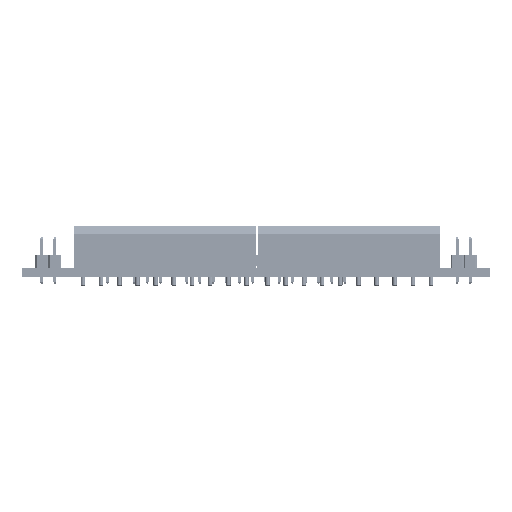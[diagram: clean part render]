
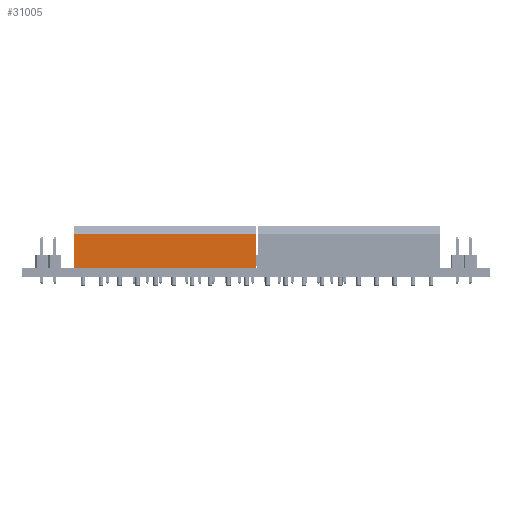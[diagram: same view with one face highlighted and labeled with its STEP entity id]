
A CAD part, left-side view. The second image highlights one B-rep face of the part: STEP entity #31005.
In plain terms, the highlighted planar face has unit normal (-1, 0, 0).
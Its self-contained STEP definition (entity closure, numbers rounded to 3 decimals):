
#11992 = VERTEX_POINT('',#11993);
#11993 = CARTESIAN_POINT('',(-3.275,17.5,0.));
#11999 = EDGE_CURVE('',#12000,#11992,#12002,.T.);
#12000 = VERTEX_POINT('',#12001);
#12001 = CARTESIAN_POINT('',(-3.275,17.5,6.55));
#12002 = LINE('',#12003,#12004);
#12003 = CARTESIAN_POINT('',(-3.275,17.5,6.55));
#12004 = VECTOR('',#12005,1.);
#12005 = DIRECTION('',(0.,0.,-1.));
#31005 = ADVANCED_FACE('',(#31006),#31031,.T.);
#31006 = FACE_BOUND('',#31007,.T.);
#31007 = EDGE_LOOP('',(#31008,#31018,#31024,#31025));
#31008 = ORIENTED_EDGE('',*,*,#31009,.T.);
#31009 = EDGE_CURVE('',#31010,#31012,#31014,.T.);
#31010 = VERTEX_POINT('',#31011);
#31011 = CARTESIAN_POINT('',(-3.275,-17.5,0.));
#31012 = VERTEX_POINT('',#31013);
#31013 = CARTESIAN_POINT('',(-3.275,-17.5,6.55));
#31014 = LINE('',#31015,#31016);
#31015 = CARTESIAN_POINT('',(-3.275,-17.5,0.));
#31016 = VECTOR('',#31017,1.);
#31017 = DIRECTION('',(0.,0.,1.));
#31018 = ORIENTED_EDGE('',*,*,#31019,.T.);
#31019 = EDGE_CURVE('',#31012,#12000,#31020,.T.);
#31020 = LINE('',#31021,#31022);
#31021 = CARTESIAN_POINT('',(-3.275,-17.5,6.55));
#31022 = VECTOR('',#31023,1.);
#31023 = DIRECTION('',(0.,1.,0.));
#31024 = ORIENTED_EDGE('',*,*,#11999,.T.);
#31025 = ORIENTED_EDGE('',*,*,#31026,.F.);
#31026 = EDGE_CURVE('',#31010,#11992,#31027,.T.);
#31027 = LINE('',#31028,#31029);
#31028 = CARTESIAN_POINT('',(-3.275,-17.5,0.));
#31029 = VECTOR('',#31030,1.);
#31030 = DIRECTION('',(0.,1.,0.));
#31031 = PLANE('',#31032);
#31032 = AXIS2_PLACEMENT_3D('',#31033,#31034,#31035);
#31033 = CARTESIAN_POINT('',(-3.275,-15.75,0.));
#31034 = DIRECTION('',(-1.,0.,0.));
#31035 = DIRECTION('',(0.,-1.,0.));
